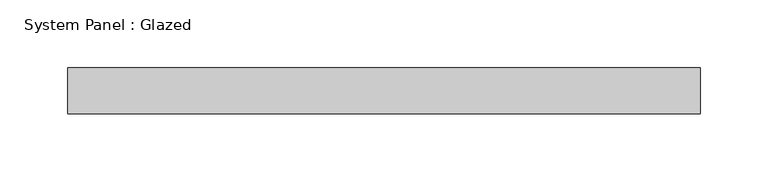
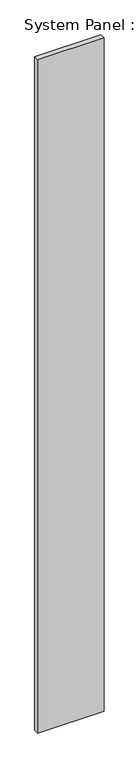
"""IFC4 building model written with IfcOpenShell, lengths in millimetres: plate geometry, System Panel : Glazed."""

from ifc_helpers import new_model, si_unit, origin, origin_with_axes, place, context, project, spatial, polyline, outline, extrude, source, transform, mapped, element, save


def system_panel_glazed_6ac2c77d(model_context):
    return source(origin(), model_context, "Body", "SweptSolid", [
        extrude(outline(polyline([(233.65, -17.0), (-233.65, -17.0), (-233.65, 17.0), (233.65, 17.0), (233.65, -17.0)])), origin_with_axes(), (0.0, 0.0, 1.0), 5000.0),
    ])


if __name__ == "__main__":
    model = new_model("IFC4")
    model_context = context("Model", 3, world=origin())
    ifc_project = project(units=[si_unit("LENGTHUNIT", "METRE", prefix="MILLI")], contexts=[model_context])
    site = spatial("IfcSite", under=ifc_project)
    building = spatial("IfcBuilding", under=site)
    placement = place(None, origin())
    system_panel_glazed_shape = system_panel_glazed_6ac2c77d(model_context)
    element("IfcPlate", 1, ObjectType="System Panel : Glazed", at=placement, inside=building, context=model_context, shape_type="MappedRepresentation", body=[
        mapped(system_panel_glazed_shape, transform((0.0, 0.0, 0.0), x_axis=(1.0, 0.0, 0.0), y_axis=(0.0, 1.0, 0.0), z_axis=(0.0, 0.0, 1.0))),
    ])
    save(model, "model.ifc")
